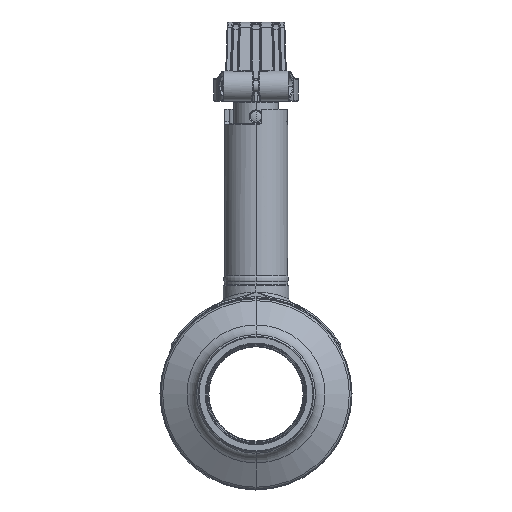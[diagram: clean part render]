
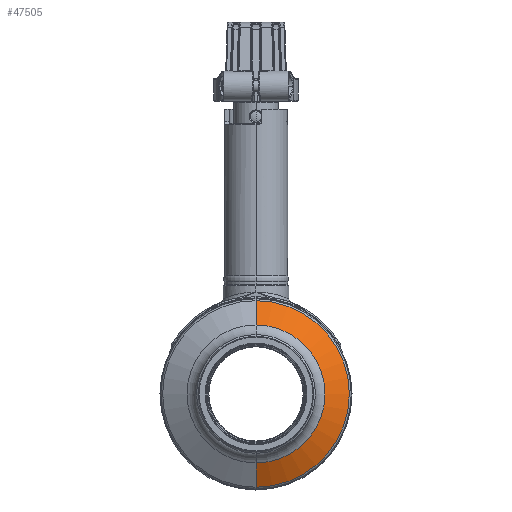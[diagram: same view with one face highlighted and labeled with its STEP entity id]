
A CAD part, left-side view. The second image highlights one B-rep face of the part: STEP entity #47505.
In plain terms, the highlighted conical face has half-angle 60.614 degrees and reference radius 43.037 mm.
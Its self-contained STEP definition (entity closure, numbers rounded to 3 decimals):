
#15042=CARTESIAN_POINT('',(-38.874,0.,0.));
#15043=DIRECTION('',(1.,0.,0.));
#15044=DIRECTION('',(0.,0.,1.));
#15045=AXIS2_PLACEMENT_3D('',#15042,#15043,#15044);
#15047=CARTESIAN_POINT('',(-46.132,0.,0.));
#15048=DIRECTION('',(-1.,0.,0.));
#15049=DIRECTION('',(0.,0.,-1.));
#15050=AXIS2_PLACEMENT_3D('',#15047,#15048,#15049);
#15113=DIRECTION('',(0.491,0.,0.871));
#15114=VECTOR('',#15113,14.792);
#15115=CARTESIAN_POINT('',(-46.132,0.,36.593));
#15116=LINE('',#15115,#15114);
#15122=DIRECTION('',(0.491,0.,-0.871));
#15123=VECTOR('',#15122,14.792);
#15124=CARTESIAN_POINT('',(-46.132,0.,-36.593));
#15125=LINE('',#15124,#15123);
#19393=CARTESIAN_POINT('',(-38.874,0.,49.481));
#19394=CARTESIAN_POINT('',(-38.874,0.,-49.481));
#19395=VERTEX_POINT('',#19393);
#19396=VERTEX_POINT('',#19394);
#19397=CARTESIAN_POINT('',(-46.132,0.,36.593));
#19398=VERTEX_POINT('',#19397);
#19399=CARTESIAN_POINT('',(-46.132,0.,-36.593));
#19400=VERTEX_POINT('',#19399);
#47491=CARTESIAN_POINT('',(-42.503,0.,0.));
#47492=DIRECTION('',(1.,0.,0.));
#47493=DIRECTION('',(0.,0.,1.));
#47494=AXIS2_PLACEMENT_3D('',#47491,#47492,#47493);
#47495=CONICAL_SURFACE('',#47494,43.037,60.614);
#47497=ORIENTED_EDGE('',*,*,#47496,.T.);
#47499=ORIENTED_EDGE('',*,*,#47498,.F.);
#47500=ORIENTED_EDGE('',*,*,#47481,.T.);
#47502=ORIENTED_EDGE('',*,*,#47501,.T.);
#47503=EDGE_LOOP('',(#47497,#47499,#47500,#47502));
#47504=FACE_OUTER_BOUND('',#47503,.F.);
#15046=CIRCLE('',#15045,49.481);
#15051=CIRCLE('',#15050,36.593);
#47481=EDGE_CURVE('',#19400,#19398,#15051,.T.);
#47496=EDGE_CURVE('',#19395,#19396,#15046,.T.);
#47498=EDGE_CURVE('',#19400,#19396,#15125,.T.);
#47501=EDGE_CURVE('',#19398,#19395,#15116,.T.);
#47505=ADVANCED_FACE('',(#47504),#47495,.T.);
